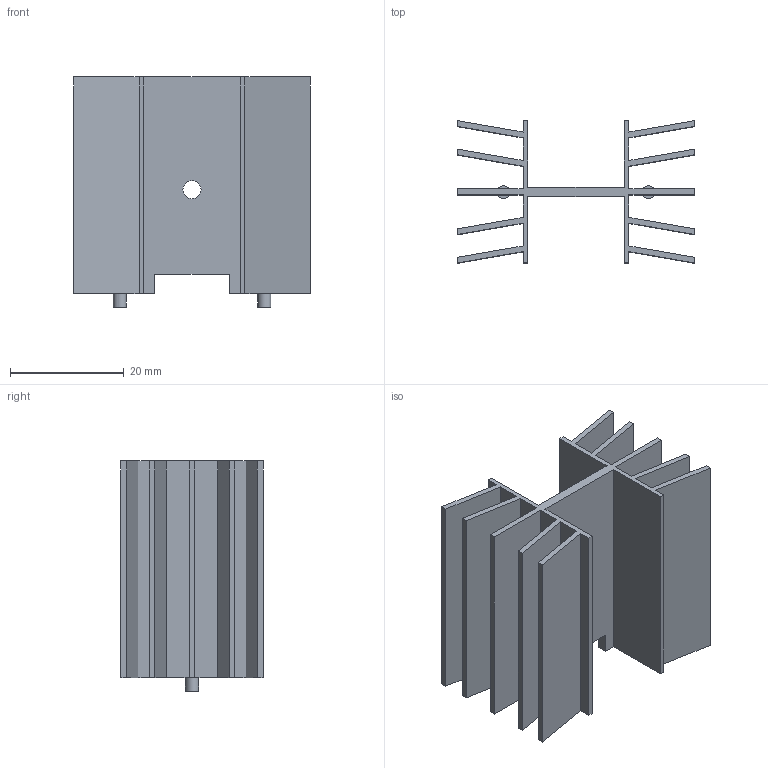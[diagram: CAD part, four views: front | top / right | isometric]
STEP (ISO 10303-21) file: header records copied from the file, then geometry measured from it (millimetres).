
FILE_DESCRIPTION(('Open CASCADE Model'),'2;1');
FILE_NAME('Open CASCADE Shape Model','2026-11-07T19:17:26',('Author'),( 'Open CASCADE'),'Open CASCADE STEP processor 7.9','Open CASCADE 7.9' ,'Unknown');
FILE_SCHEMA(('AUTOMOTIVE_DESIGN { 1 0 10303 214 1 1 1 1 }'));
Length unit declared in the file: millimetre
Products named in the file (4): 8ad10664-db1a-11f1-a2cb-fb9cc656b430; aluminium_reference; solder_pin_m1; solder_pin_1
Assembly tree (3 placements, depth 2):
  8ad10664-db1a-11f1-a2cb-fb9cc656b430
    aluminium_reference
    solder_pin_m1
    solder_pin_1
Bounding box: 41.6 x 25 x 40.4 mm (x, y, z)
Volume: 6875.3 mm3; surface area: 14308.1 mm2
Topology: 3 solids, 3 shells, 65 faces, 177 edges, 118 vertices
Faces by surface type: plane 62, cylinder 3
Full cylindrical faces by diameter (mm): 2.3 x2, 3.2 x1
Entity records: 4396 total; most frequent: CARTESIAN_POINT 730, DIRECTION 663, LINE 507, VECTOR 507, ORIENTED_EDGE 354, PCURVE 354, DEFINITIONAL_REPRESENTATION 354, EDGE_CURVE 177
